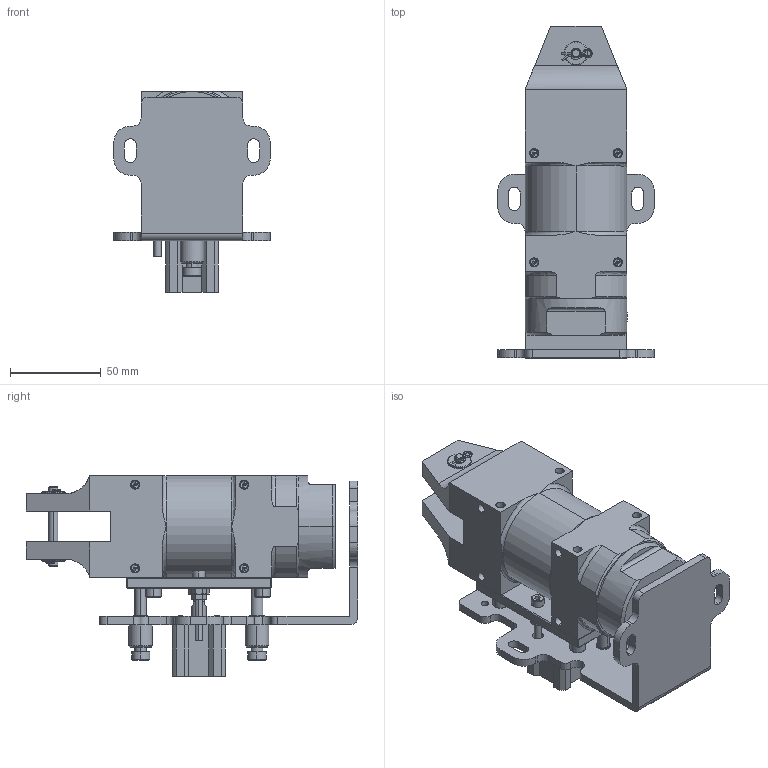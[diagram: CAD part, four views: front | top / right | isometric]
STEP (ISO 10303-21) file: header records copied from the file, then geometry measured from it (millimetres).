
FILE_DESCRIPTION (( 'STEP AP214' ), '1' );
FILE_NAME ('GTNB3010HIKU.STEP', '2019-11-29T08:59:52', ( '微软用户' ), ( '微软中国' ), 'SwSTEP 2.0', 'SolidWorks 2016', '' );
FILE_SCHEMA (( 'AUTOMOTIVE_DESIGN' ));
Length unit declared in the file: millimetre
Products named in the file (1): GTNB3010HIKU
Bounding box: 86 x 182.5 x 110.5 mm (x, y, z)
Surface area: 104083.4 mm2 (no closed solid volume)
Topology: 0 solids, 24 shells, 891 faces, 2169 edges, 1305 vertices
Faces by surface type: plane 316, cylinder 302, cone 237, bspline 34, torus 2
Entity records: 35736 total; most frequent: CARTESIAN_POINT 13925, DIRECTION 4304, ORIENTED_EDGE 4113, EDGE_CURVE 2112, AXIS2_PLACEMENT_3D 1679, VERTEX_POINT 1305, EDGE_LOOP 1048, LINE 946
